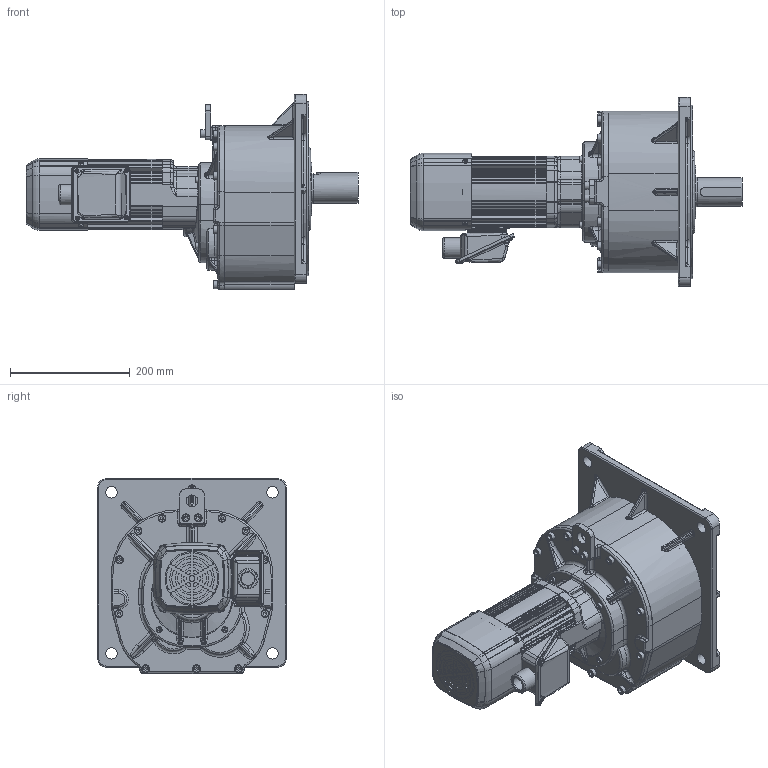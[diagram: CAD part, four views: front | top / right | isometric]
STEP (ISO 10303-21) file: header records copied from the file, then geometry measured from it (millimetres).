
FILE_DESCRIPTION( ( 'Unknown' ), '1' );
FILE_NAME( 'W:/gm/3D-WEB/GV-S/完成品/モータ+減速機/パーツデータ/完成品(GV-SF_0.75kw_ブレーキ付_LM_540-900).stp', 'Unknown', ( 'Unknown' ), ( 'Unknown' ), 'PSStep 11.0', 'Unknown', ' ' );
FILE_SCHEMA( ( 'AUTOMOTIVE_DESIGN { 1 0 10303 214 1 1 1 1 }' ) );
Length unit declared in the file: millimetre
Products named in the file (4): PF08080_GÊß¯·Ý(L48)
Bounding box: 554 x 315 x 325.5 mm (x, y, z)
Volume: 10837812.5 mm3; surface area: 1009297.7 mm2
Topology: 4 solids, 45 shells, 2574 faces, 6394 edges, 3941 vertices
Faces by surface type: cylinder 1050, plane 921, torus 236, bspline 227, cone 101, sphere 39
Full cylindrical faces by diameter (mm): 3.3 x4, 3.8 x4, 4 x6, 4.134 x8, 4.5 x12, 4.6 x4, 4.917 x4, 5.8 x4, 6 x8, 6.647 x2, 6.8 x11, 7 x5, 8 x13, 8.2 x1, 9 x11, 9.7 x4, 10 x22, 12 x2, 13 x15, 13.5 x2, 15 x1, 16 x1, 19 x4, 20 x1, 22 x1, 24.117 x2, 34 x1, 48 x1, 50 x2, 50.1 x1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
Entity records: 116607 total; most frequent: CARTESIAN_POINT 37432, DIRECTION 12761, ORIENTED_EDGE 11610, EDGE_CURVE 5805, AXIS2_PLACEMENT_3D 5105, VERTEX_POINT 3752, EDGE_LOOP 3029, FACE_OUTER_BOUND 2785
